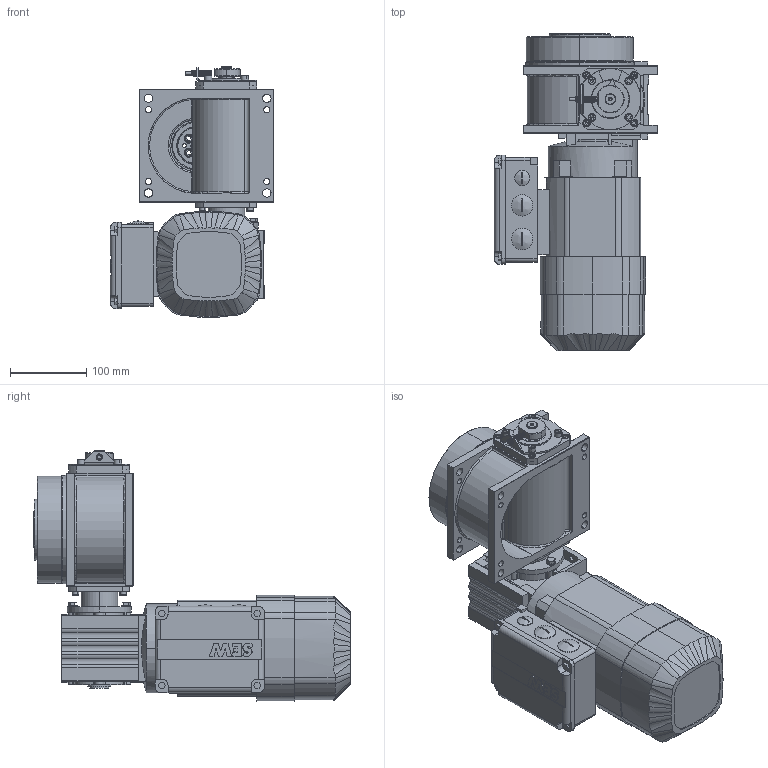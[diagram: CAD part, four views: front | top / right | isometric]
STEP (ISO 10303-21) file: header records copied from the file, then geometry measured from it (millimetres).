
FILE_DESCRIPTION (( 'STEP AP214' ), '1' );
FILE_NAME ('M140_SEW_WA20DRS71S4BE05_D2.STEP', '2021-01-22T15:23:49', ( '' ), ( '' ), 'SwSTEP 2.0', 'SolidWorks 2020', '' );
FILE_SCHEMA (( 'AUTOMOTIVE_DESIGN' ));
Length unit declared in the file: millimetre
Products named in the file (1): M140_SEW_WA20DRS71S4BE05_D2
Bounding box: 214 x 415.2 x 327.89 mm (x, y, z)
Surface area: 461337.8 mm2 (no closed solid volume)
Topology: 0 solids, 42 shells, 1123 faces, 3502 edges, 2358 vertices
Faces by surface type: plane 489, cylinder 425, bspline 90, cone 72, torus 47
Entity records: 57770 total; most frequent: CARTESIAN_POINT 15035, DIRECTION 6218, ORIENTED_EDGE 6114, EDGE_CURVE 3488, VERTEX_POINT 2358, AXIS2_PLACEMENT_3D 2170, VECTOR 1878, LINE 1878
